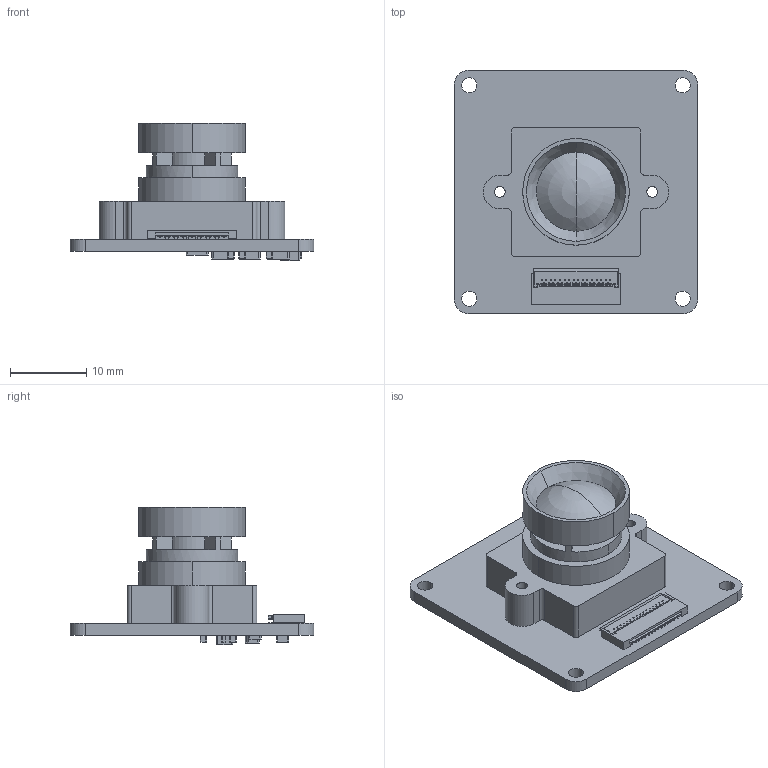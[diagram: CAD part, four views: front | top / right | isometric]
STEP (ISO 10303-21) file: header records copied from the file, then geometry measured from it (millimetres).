
FILE_DESCRIPTION((''),'2;1');
FILE_NAME('CAMERA_4K_ASM','2026-09-08T11:37:56',('Owen'),(''),'CREO PARAMETRIC BY PTC INC, 2026053','CREO PARAMETRIC BY PTC INC, 2026053','');
FILE_SCHEMA(('CONFIG_CONTROL_DESIGN','SHAPE_APPEARANCE_LAYERS_GROUPS'));
Length unit declared in the file: millimetre
Products named in the file (3): CAMERA_4K1; FH23-31S-0_3SHAW__X_8A_S-250760; CAMERA_4K_ASM
Assembly tree (2 placements, depth 2):
  CAMERA_4K_ASM
    CAMERA_4K1
    FH23-31S-0_3SHAW__X_8A_S-250760
Bounding box: 32 x 32 x 18 mm (x, y, z)
Volume: 3548.8 mm3; surface area: 4684.9 mm2
Topology: 14 solids, 14 shells, 933 faces, 2874 edges, 1907 vertices
Faces by surface type: plane 712, cylinder 217, cone 2, sphere 2
Entity records: 33198 total; most frequent: ORIENTED_EDGE 5744, CARTESIAN_POINT 5717, DIRECTION 5198, EDGE_CURVE 2872, VECTOR 2422, LINE 2422, VERTEX_POINT 1907, AXIS2_PLACEMENT_3D 1388
